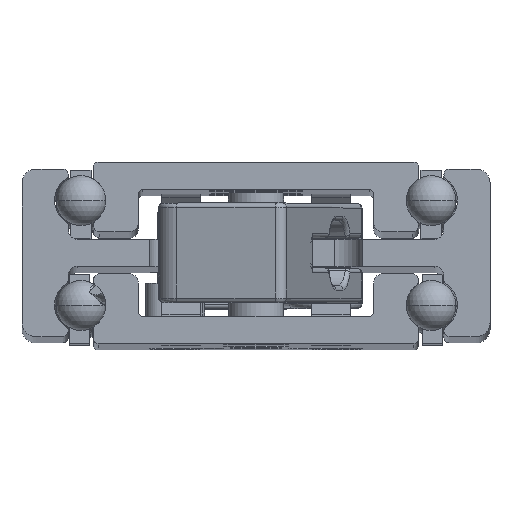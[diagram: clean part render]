
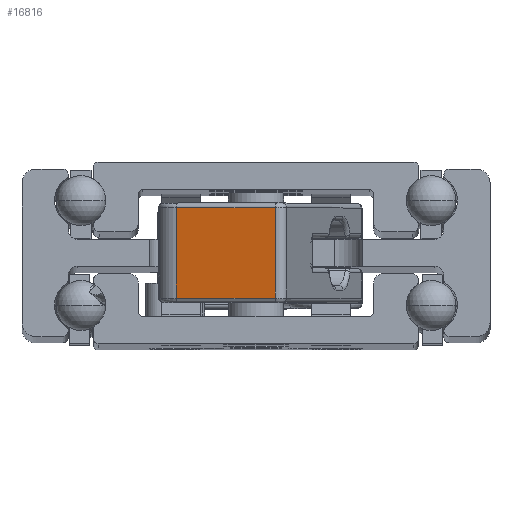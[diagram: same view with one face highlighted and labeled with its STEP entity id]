
A CAD part, top view. The second image highlights one B-rep face of the part: STEP entity #16816.
In plain terms, the highlighted planar face has unit normal (-0.225, 0, 0.974) as drawn and (-1, 0, 0) by its records, which use the part's own axes.
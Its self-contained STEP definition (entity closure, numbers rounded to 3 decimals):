
#864 = LINE ( 'NONE', #6318, #12492 ) ;
#1634 = CARTESIAN_POINT ( 'NONE',  ( -37., -3., 4.9 ) ) ;
#3451 = VERTEX_POINT ( 'NONE', #19108 ) ;
#3651 = ORIENTED_EDGE ( 'NONE', *, *, #27372, .T. ) ;
#4652 = CARTESIAN_POINT ( 'NONE',  ( -37., -3., -4.9 ) ) ;
#4919 = VECTOR ( 'NONE', #10210, 1000. ) ;
#6008 = CARTESIAN_POINT ( 'NONE',  ( -37., 8., 5.4 ) ) ;
#6318 = CARTESIAN_POINT ( 'NONE',  ( -37., -3., 5.4 ) ) ;
#8958 = DIRECTION ( 'NONE',  ( 1., 0., 0. ) ) ;
#10210 = DIRECTION ( 'NONE',  ( 0., 0., -1. ) ) ;
#10255 = VECTOR ( 'NONE', #23854, 1000. ) ;
#10472 = ORIENTED_EDGE ( 'NONE', *, *, #14529, .T. ) ;
#10693 = VERTEX_POINT ( 'NONE', #1634 ) ;
#11085 = AXIS2_PLACEMENT_3D ( 'NONE', #13168, #8958, #22018 ) ;
#12492 = VECTOR ( 'NONE', #21017, 1000. ) ;
#13168 = CARTESIAN_POINT ( 'NONE',  ( -37., -4., 5.4 ) ) ;
#14529 = EDGE_CURVE ( 'NONE', #23577, #10693, #864, .T. ) ;
#14743 = EDGE_LOOP ( 'NONE', ( #3651, #20847, #10472, #27380 ) ) ;
#14885 = LINE ( 'NONE', #15158, #10255 ) ;
#15158 = CARTESIAN_POINT ( 'NONE',  ( -37., 8., 4.9 ) ) ;
#15487 = FACE_OUTER_BOUND ( 'NONE', #14743, .T. ) ;
#16097 = LINE ( 'NONE', #20607, #16514 ) ;
#16176 = EDGE_CURVE ( 'NONE', #10693, #3451, #14885, .T. ) ;
#16514 = VECTOR ( 'NONE', #18407, 1000. ) ;
#16816 = ADVANCED_FACE ( 'NONE', ( #15487 ), #28252, .F. ) ;
#17444 = VERTEX_POINT ( 'NONE', #22696 ) ;
#18407 = DIRECTION ( 'NONE',  ( 0., -1., 0. ) ) ;
#19108 = CARTESIAN_POINT ( 'NONE',  ( -37., 8., 4.9 ) ) ;
#20607 = CARTESIAN_POINT ( 'NONE',  ( -37., -4., -4.9 ) ) ;
#20847 = ORIENTED_EDGE ( 'NONE', *, *, #27976, .T. ) ;
#21017 = DIRECTION ( 'NONE',  ( 0., 0., 1. ) ) ;
#22018 = DIRECTION ( 'NONE',  ( 0., 1., 0. ) ) ;
#22696 = CARTESIAN_POINT ( 'NONE',  ( -37., 8., -4.9 ) ) ;
#23577 = VERTEX_POINT ( 'NONE', #4652 ) ;
#23854 = DIRECTION ( 'NONE',  ( 0., 1., 0. ) ) ;
#27372 = EDGE_CURVE ( 'NONE', #3451, #17444, #27902, .T. ) ;
#27380 = ORIENTED_EDGE ( 'NONE', *, *, #16176, .T. ) ;
#27902 = LINE ( 'NONE', #6008, #4919 ) ;
#27976 = EDGE_CURVE ( 'NONE', #17444, #23577, #16097, .T. ) ;
#28252 = PLANE ( 'NONE',  #11085 ) ;
